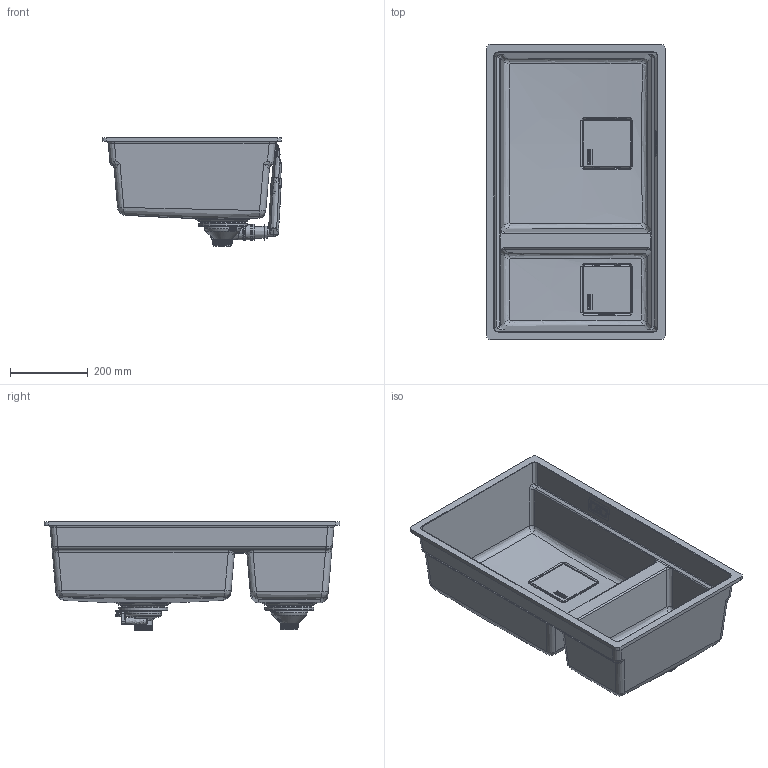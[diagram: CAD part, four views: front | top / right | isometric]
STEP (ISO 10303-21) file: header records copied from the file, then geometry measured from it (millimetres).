
FILE_DESCRIPTION(/* description */ (''),/* implementation_level */ '2;1');
FILE_NAME(/* name */ '3D001_Sinks_Kubus-2_KNG-120-46-21',/* time_stamp */ '2024-11-18T10:02:49+01:00',/* author */ (''),/* organization */ (''),/* preprocessor_version */ 'ST-DEVELOPER v19.2',/* originating_system */ 'Rhino 8.9',/* authorisation */ '');
FILE_SCHEMA (('CONFIG_CONTROL_DESIGN'));
Products named in the file (5): Document; Blocco 01; LOGO_SOLOBORDO_COPRISCARICO; Blocco 07; Blocco 08
Bounding box: 461.09 x 760 x 280 mm (x, y, z)
Volume: 6243556.2 mm3; surface area: 1805348.4 mm2
Topology: 24 solids, 32 shells, 3701 faces, 10273 edges, 6691 vertices
Faces by surface type: plane 2320, cylinder 700, bspline 681
Full cylindrical faces by diameter (mm): 4.125 x1, 5 x3, 6 x1, 7.5 x3, 8 x1, 14 x2, 14.3 x1, 23.8 x1, 24 x1, 30 x3, 36 x2, 39 x1, 42 x3, 45 x2, 45.5 x1, 48 x1, 83.403 x1, 84 x2, 90 x1, 119 x1, 126 x2
Entity records: 161580 total; most frequent: CARTESIAN_POINT 86000, ORIENTED_EDGE 19449, EDGE_CURVE 9809, DIRECTION 8135, B_SPLINE_CURVE_WITH_KNOTS 6517, VERTEX_POINT 6399, AXIS2_PLACEMENT_3D 5499, EDGE_LOOP 3712
